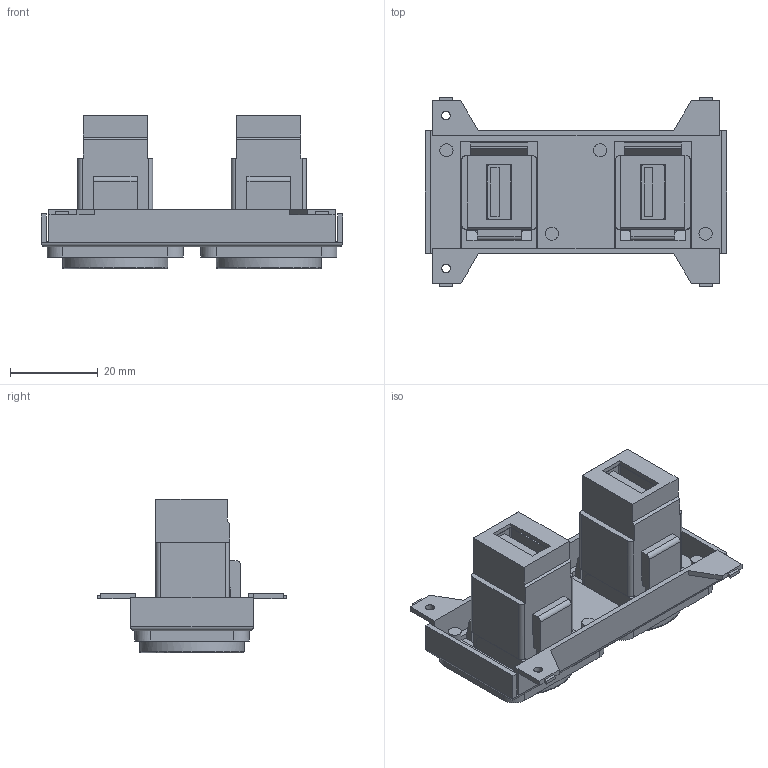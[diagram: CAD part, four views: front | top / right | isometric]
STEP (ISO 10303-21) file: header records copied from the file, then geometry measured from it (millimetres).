
FILE_DESCRIPTION(('FreeCAD Model'),'2;1');
FILE_NAME('Open CASCADE Shape Model','2026-09-15T11:28:00',(''),(''), 'Open CASCADE STEP processor 7.8','FreeCAD','Unknown');
FILE_SCHEMA(('AUTOMOTIVE_DESIGN { 1 0 10303 214 1 1 1 1 }'));
Length unit declared in the file: millimetre
Products named in the file (12): BTK_2PNUSB3ACR_BK; PMNST_USB3ACR_BK; 3013BUSXLRBK; 210USB05N2BK; M3x8-Screw; M3x8-Screw001; P-201802; PMNST_USB3ACR_BK001; 3013BUSXLRBK001; 210USB05N2BK001; M3x8-Screw002; M3x8-Screw003
Assembly tree (11 placements, depth 3):
  BTK_2PNUSB3ACR_BK
    PMNST_USB3ACR_BK
      3013BUSXLRBK
      210USB05N2BK
    M3x8-Screw
    M3x8-Screw001
    P-201802
    PMNST_USB3ACR_BK001
      3013BUSXLRBK001
      210USB05N2BK001
    M3x8-Screw002
    M3x8-Screw003
Bounding box: 68.7 x 43.2 x 35 mm (x, y, z)
Volume: 24491.6 mm3; surface area: 20299.3 mm2
Topology: 9 solids, 9 shells, 449 faces, 1231 edges, 814 vertices
Faces by surface type: bspline 278, plane 125, cone 24, cylinder 18, torus 4
Full cylindrical faces by diameter (mm): 2 x6, 3 x4, 5.3 x4
Entity records: 18862 total; most frequent: CARTESIAN_POINT 9386, ORIENTED_EDGE 2454, EDGE_CURVE 1227, DIRECTION 999, VERTEX_POINT 814, B_SPLINE_CURVE_WITH_KNOTS 762, FACE_BOUND 495, EDGE_LOOP 495
